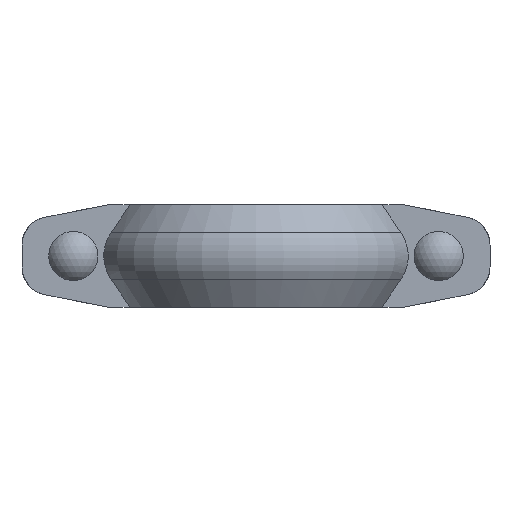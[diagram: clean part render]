
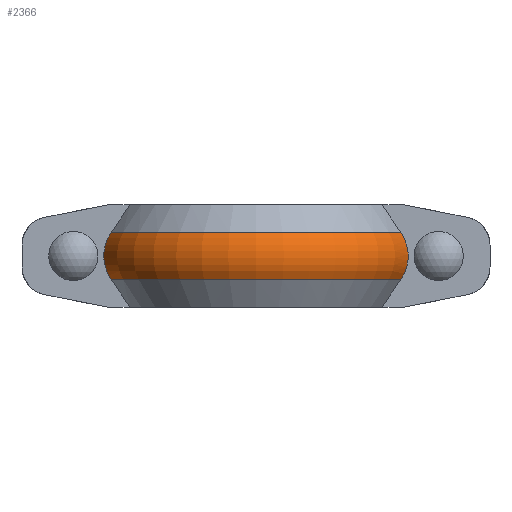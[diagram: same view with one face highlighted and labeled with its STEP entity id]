
A CAD part, front view. The second image highlights one B-rep face of the part: STEP entity #2366.
In plain terms, the highlighted toroidal (fillet/blend) face has major radius 66.498 mm and minor radius 24.053 mm.
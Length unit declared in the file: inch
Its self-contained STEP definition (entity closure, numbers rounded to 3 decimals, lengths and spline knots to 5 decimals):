
#47=TOROIDAL_SURFACE('',#2622,2.61803,0.94697);
#77=B_SPLINE_CURVE_WITH_KNOTS('',3,(#4506,#4507,#4508,#4509,#4510,#4511,
#4512,#4513,#4514,#4515,#4516,#4517,#4518,#4519,#4520,#4521,#4522,#4523,
#4524),.UNSPECIFIED.,.F.,.F.,(4,2,2,2,3,2,2,2,4),(-1.31726,-1.31519,
-0.86672,-0.43336,0.,0.43336,0.86672,
1.31519,1.31726),.UNSPECIFIED.);
#80=B_SPLINE_CURVE_WITH_KNOTS('',3,(#4541,#4542,#4543,#4544,#4545,#4546,
#4547,#4548,#4549,#4550,#4551,#4552,#4553,#4554,#4555,#4556,#4557,#4558,
#4559),.UNSPECIFIED.,.F.,.F.,(4,2,2,2,3,2,2,2,4),(-1.31726,-1.31519,
-0.86672,-0.43336,0.,0.43336,0.86672,
1.31519,1.31726),.UNSPECIFIED.);
#321=FACE_OUTER_BOUND('',#457,.T.);
#457=EDGE_LOOP('',(#2044,#2045,#2046,#2047));
#879=CIRCLE('',#2614,3.41211);
#884=CIRCLE('',#2623,3.41211);
#1085=VERTEX_POINT('',#4500);
#1086=VERTEX_POINT('',#4505);
#1089=VERTEX_POINT('',#4535);
#1090=VERTEX_POINT('',#4540);
#1398=EDGE_CURVE('',#1086,#1085,#77,.T.);
#1402=EDGE_CURVE('',#1090,#1089,#80,.T.);
#1415=EDGE_CURVE('',#1086,#1089,#879,.T.);
#1420=EDGE_CURVE('',#1090,#1085,#884,.T.);
#2044=ORIENTED_EDGE('',*,*,#1402,.T.);
#2045=ORIENTED_EDGE('',*,*,#1415,.F.);
#2046=ORIENTED_EDGE('',*,*,#1398,.T.);
#2047=ORIENTED_EDGE('',*,*,#1420,.F.);
#2366=ADVANCED_FACE('',(#321),#47,.T.);
#2614=AXIS2_PLACEMENT_3D('',#4616,#3255,#3256);
#2622=AXIS2_PLACEMENT_3D('',#4624,#3271,#3272);
#2623=AXIS2_PLACEMENT_3D('',#4625,#3273,#3274);
#3255=DIRECTION('center_axis',(0.,0.,-1.));
#3256=DIRECTION('ref_axis',(0.,1.,0.));
#3271=DIRECTION('center_axis',(0.,0.,-1.));
#3272=DIRECTION('ref_axis',(1.,0.,0.));
#3273=DIRECTION('center_axis',(0.,0.,1.));
#3274=DIRECTION('ref_axis',(0.,1.,0.));
#4500=CARTESIAN_POINT('',(3.17094,-1.26,0.51594));
#4505=CARTESIAN_POINT('',(3.17094,-1.26,-0.51594));
#4506=CARTESIAN_POINT('Ctrl Pts',(3.17094,-1.26,-0.51594));
#4507=CARTESIAN_POINT('Ctrl Pts',(3.17111,-1.26,-0.5157));
#4508=CARTESIAN_POINT('Ctrl Pts',(3.17128,-1.26,-0.51545));
#4509=CARTESIAN_POINT('Ctrl Pts',(3.20816,-1.26,-0.4626));
#4510=CARTESIAN_POINT('Ctrl Pts',(3.23911,-1.26,-0.406));
#4511=CARTESIAN_POINT('Ctrl Pts',(3.28474,-1.26,-0.29965));
#4512=CARTESIAN_POINT('Ctrl Pts',(3.30398,-1.26,-0.24033));
#4513=CARTESIAN_POINT('Ctrl Pts',(3.32907,-1.26,-0.11894));
#4514=CARTESIAN_POINT('Ctrl Pts',(3.33491,-1.26,-0.05687));
#4515=CARTESIAN_POINT('Ctrl Pts',(3.33491,-1.26,0.));
#4516=CARTESIAN_POINT('Ctrl Pts',(3.33491,-1.26,0.05687));
#4517=CARTESIAN_POINT('Ctrl Pts',(3.32907,-1.26,0.11894));
#4518=CARTESIAN_POINT('Ctrl Pts',(3.30398,-1.26,0.24033));
#4519=CARTESIAN_POINT('Ctrl Pts',(3.28474,-1.26,0.29965));
#4520=CARTESIAN_POINT('Ctrl Pts',(3.23911,-1.26,0.406));
#4521=CARTESIAN_POINT('Ctrl Pts',(3.20816,-1.26,0.4626));
#4522=CARTESIAN_POINT('Ctrl Pts',(3.17128,-1.26,0.51545));
#4523=CARTESIAN_POINT('Ctrl Pts',(3.17111,-1.26,0.5157));
#4524=CARTESIAN_POINT('Ctrl Pts',(3.17094,-1.26,0.51594));
#4535=CARTESIAN_POINT('',(-3.17094,-1.26,-0.51594));
#4540=CARTESIAN_POINT('',(-3.17094,-1.26,0.51594));
#4541=CARTESIAN_POINT('Ctrl Pts',(-3.17094,-1.26,0.51594));
#4542=CARTESIAN_POINT('Ctrl Pts',(-3.17111,-1.26,0.5157));
#4543=CARTESIAN_POINT('Ctrl Pts',(-3.17128,-1.26,0.51545));
#4544=CARTESIAN_POINT('Ctrl Pts',(-3.20816,-1.26,0.4626));
#4545=CARTESIAN_POINT('Ctrl Pts',(-3.23911,-1.26,0.406));
#4546=CARTESIAN_POINT('Ctrl Pts',(-3.28474,-1.26,0.29965));
#4547=CARTESIAN_POINT('Ctrl Pts',(-3.30398,-1.26,0.24033));
#4548=CARTESIAN_POINT('Ctrl Pts',(-3.32907,-1.26,0.11894));
#4549=CARTESIAN_POINT('Ctrl Pts',(-3.33491,-1.26,0.05687));
#4550=CARTESIAN_POINT('Ctrl Pts',(-3.33491,-1.26,0.));
#4551=CARTESIAN_POINT('Ctrl Pts',(-3.33491,-1.26,-0.05687));
#4552=CARTESIAN_POINT('Ctrl Pts',(-3.32907,-1.26,-0.11894));
#4553=CARTESIAN_POINT('Ctrl Pts',(-3.30398,-1.26,-0.24033));
#4554=CARTESIAN_POINT('Ctrl Pts',(-3.28474,-1.26,-0.29965));
#4555=CARTESIAN_POINT('Ctrl Pts',(-3.23911,-1.26,-0.406));
#4556=CARTESIAN_POINT('Ctrl Pts',(-3.20816,-1.26,-0.4626));
#4557=CARTESIAN_POINT('Ctrl Pts',(-3.17128,-1.26,-0.51545));
#4558=CARTESIAN_POINT('Ctrl Pts',(-3.17111,-1.26,-0.5157));
#4559=CARTESIAN_POINT('Ctrl Pts',(-3.17094,-1.26,-0.51594));
#4616=CARTESIAN_POINT('Origin',(0.,0.,-0.51594));
#4624=CARTESIAN_POINT('Origin',(0.,0.,0.));
#4625=CARTESIAN_POINT('Origin',(0.,0.,0.51594));
